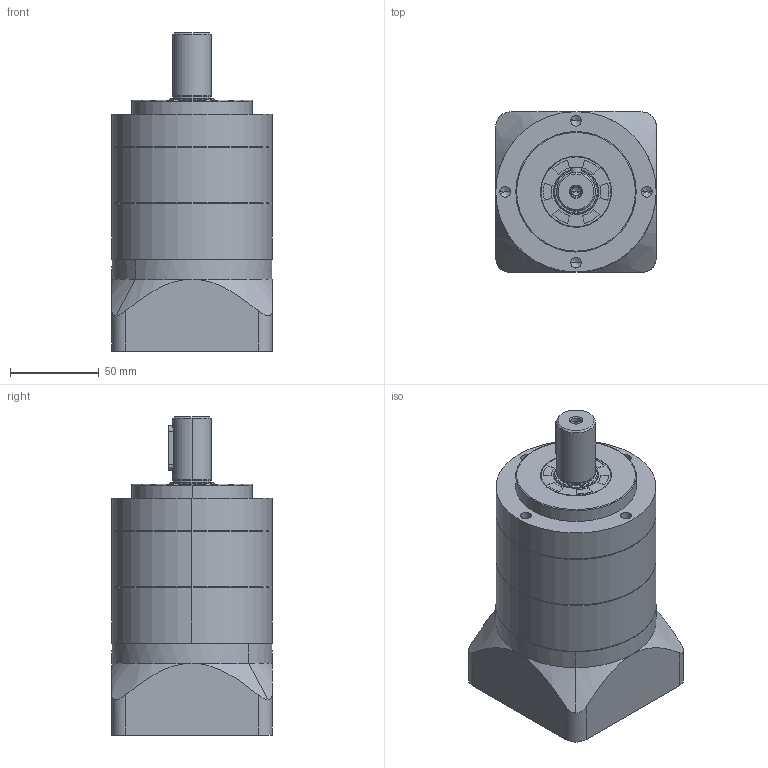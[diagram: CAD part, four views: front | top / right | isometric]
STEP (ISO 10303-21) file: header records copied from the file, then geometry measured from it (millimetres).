
FILE_DESCRIPTION (( 'STEP AP203' ), '1' );
FILE_NAME ('NA90-L2(14-60-98.7-M6).STEP', '2022-03-11T18:44:48', ( '' ), ( '' ), 'SwSTEP 2.0', 'SolidWorks 2016', '' );
FILE_SCHEMA (( 'CONFIG_CONTROL_DESIGN' ));
Length unit declared in the file: millimetre
Products named in the file (9): SN90-48x27x15-M6; SN90-(22x37-6x25); SN90-(19); SN90-(60-98.7-M6); NA90-L2(14-60-98.7-M6); SN90-25x40x5; NA90-(68x8-80-M6); SN90; 90-(o19-14x26)
Assembly tree (9 placements, depth 2):
  NA90-L2(14-60-98.7-M6)
    NA90-(68x8-80-M6)
    SN90-25x40x5
    SN90-(22x37-6x25)
    SN90  x2
    SN90-(60-98.7-M6)
    SN90-(19)
    SN90-48x27x15-M6
    90-(o19-14x26)
Bounding box: 90.5 x 90.5 x 179.5 mm (x, y, z)
Volume: 884293.4 mm3; surface area: 153558.3 mm2
Topology: 11 solids, 11 shells, 464 faces, 1177 edges, 740 vertices
Faces by surface type: cylinder 240, plane 115, cone 71, bspline 32, torus 6
Entity records: 30322 total; most frequent: CARTESIAN_POINT 19205, ORIENTED_EDGE 2194, DIRECTION 2064, EDGE_CURVE 1097, AXIS2_PLACEMENT_3D 808, VERTEX_POINT 708, EDGE_LOOP 515, VECTOR 448
